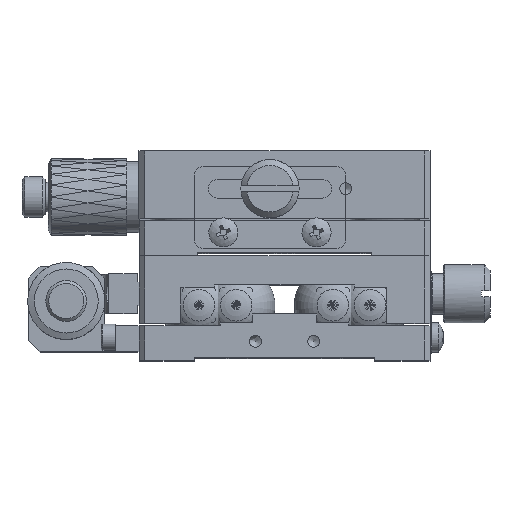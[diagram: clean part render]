
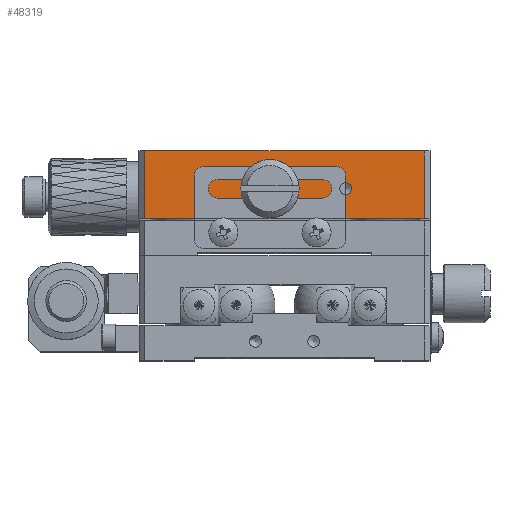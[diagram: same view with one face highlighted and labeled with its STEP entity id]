
A CAD part, top view. The second image highlights one B-rep face of the part: STEP entity #48319.
In plain terms, the highlighted planar face has unit normal (0, 0, 1).
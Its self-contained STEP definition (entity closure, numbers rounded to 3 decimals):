
#833 = CARTESIAN_POINT ( 'NONE',  ( 1., 36., 50. ) ) ;
#5715 = ORIENTED_EDGE ( 'NONE', *, *, #19283, .F. ) ;
#7819 = DIRECTION ( 'NONE',  ( 0., 1., 0. ) ) ;
#10402 = EDGE_LOOP ( 'NONE', ( #20439 ) ) ;
#11007 = EDGE_LOOP ( 'NONE', ( #99383 ) ) ;
#18582 = CARTESIAN_POINT ( 'NONE',  ( 1., 24.4, 50. ) ) ;
#18924 = CARTESIAN_POINT ( 'NONE',  ( 35.5, 29.5, 50. ) ) ;
#19283 = EDGE_CURVE ( 'NONE', #85455, #85455, #62222, .T. ) ;
#20439 = ORIENTED_EDGE ( 'NONE', *, *, #47753, .F. ) ;
#21928 = LINE ( 'NONE', #67551, #114265 ) ;
#22927 = DIRECTION ( 'NONE',  ( 1., 0., 0. ) ) ;
#27137 = AXIS2_PLACEMENT_3D ( 'NONE', #18924, #28400, #100694 ) ;
#28125 = CARTESIAN_POINT ( 'NONE',  ( 22.5, 29.5, 50. ) ) ;
#28400 = DIRECTION ( 'NONE',  ( 0., 0., 1. ) ) ;
#30667 = ORIENTED_EDGE ( 'NONE', *, *, #44702, .T. ) ;
#37400 = FACE_BOUND ( 'NONE', #11007, .T. ) ;
#38195 = FACE_BOUND ( 'NONE', #10402, .T. ) ;
#39351 = LINE ( 'NONE', #87279, #149620 ) ;
#39743 = CARTESIAN_POINT ( 'NONE',  ( 0., 36., 50. ) ) ;
#43439 = VERTEX_POINT ( 'NONE', #98614 ) ;
#44702 = EDGE_CURVE ( 'NONE', #67611, #43439, #21928, .T. ) ;
#45284 = EDGE_CURVE ( 'NONE', #134340, #134340, #124356, .T. ) ;
#46443 = EDGE_CURVE ( 'NONE', #102765, #49381, #146909, .T. ) ;
#47753 = EDGE_CURVE ( 'NONE', #103494, #103494, #152315, .T. ) ;
#47994 = EDGE_CURVE ( 'NONE', #102765, #43439, #145990, .T. ) ;
#48319 = ADVANCED_FACE ( 'NONE', ( #37400, #73553, #38195, #121434 ), #61735, .F. ) ;
#48449 = DIRECTION ( 'NONE',  ( -1., 0., 0. ) ) ;
#49381 = VERTEX_POINT ( 'NONE', #18582 ) ;
#49389 = CARTESIAN_POINT ( 'NONE',  ( 0., 36., 50. ) ) ;
#53237 = CARTESIAN_POINT ( 'NONE',  ( 23.7, 29.5, 50. ) ) ;
#54772 = CARTESIAN_POINT ( 'NONE',  ( 20.525, 29.5, 50. ) ) ;
#56643 = AXIS2_PLACEMENT_3D ( 'NONE', #130529, #81102, #22927 ) ;
#59187 = AXIS2_PLACEMENT_3D ( 'NONE', #39743, #147352, #48449 ) ;
#61735 = PLANE ( 'NONE',  #59187 ) ;
#62222 = CIRCLE ( 'NONE', #27137, 1.025 ) ;
#62894 = EDGE_LOOP ( 'NONE', ( #5715 ) ) ;
#64238 = DIRECTION ( 'NONE',  ( 0., 0., 1. ) ) ;
#67551 = CARTESIAN_POINT ( 'NONE',  ( 49., 36., 50. ) ) ;
#67611 = VERTEX_POINT ( 'NONE', #114691 ) ;
#73553 = FACE_BOUND ( 'NONE', #62894, .T. ) ;
#78964 = EDGE_LOOP ( 'NONE', ( #117437, #139660, #135595, #30667 ) ) ;
#79138 = DIRECTION ( 'NONE',  ( 1., 0., 0. ) ) ;
#81102 = DIRECTION ( 'NONE',  ( 0., 0., 1. ) ) ;
#85455 = VERTEX_POINT ( 'NONE', #121553 ) ;
#87279 = CARTESIAN_POINT ( 'NONE',  ( 0., 24.4, 50. ) ) ;
#98269 = DIRECTION ( 'NONE',  ( 0., -1., 0. ) ) ;
#98614 = CARTESIAN_POINT ( 'NONE',  ( 49., 36., 50. ) ) ;
#99257 = AXIS2_PLACEMENT_3D ( 'NONE', #28125, #64238, #134175 ) ;
#99383 = ORIENTED_EDGE ( 'NONE', *, *, #45284, .F. ) ;
#100304 = CARTESIAN_POINT ( 'NONE',  ( 1., 36., 50. ) ) ;
#100694 = DIRECTION ( 'NONE',  ( 1., 0., 0. ) ) ;
#102765 = VERTEX_POINT ( 'NONE', #100304 ) ;
#103494 = VERTEX_POINT ( 'NONE', #53237 ) ;
#104760 = EDGE_CURVE ( 'NONE', #49381, #67611, #39351, .T. ) ;
#114265 = VECTOR ( 'NONE', #7819, 1000. ) ;
#114691 = CARTESIAN_POINT ( 'NONE',  ( 49., 24.4, 50. ) ) ;
#117437 = ORIENTED_EDGE ( 'NONE', *, *, #47994, .F. ) ;
#121434 = FACE_OUTER_BOUND ( 'NONE', #78964, .T. ) ;
#121553 = CARTESIAN_POINT ( 'NONE',  ( 36.525, 29.5, 50. ) ) ;
#124356 = CIRCLE ( 'NONE', #56643, 1.025 ) ;
#130529 = CARTESIAN_POINT ( 'NONE',  ( 19.5, 29.5, 50. ) ) ;
#134175 = DIRECTION ( 'NONE',  ( 1., 0., 0. ) ) ;
#134340 = VERTEX_POINT ( 'NONE', #54772 ) ;
#135595 = ORIENTED_EDGE ( 'NONE', *, *, #104760, .T. ) ;
#139660 = ORIENTED_EDGE ( 'NONE', *, *, #46443, .T. ) ;
#142203 = VECTOR ( 'NONE', #79138, 1000. ) ;
#144667 = VECTOR ( 'NONE', #98269, 1000. ) ;
#145990 = LINE ( 'NONE', #49389, #142203 ) ;
#146909 = LINE ( 'NONE', #833, #144667 ) ;
#147352 = DIRECTION ( 'NONE',  ( 0., 0., -1. ) ) ;
#149620 = VECTOR ( 'NONE', #149858, 1000. ) ;
#149858 = DIRECTION ( 'NONE',  ( 1., 0., 0. ) ) ;
#152315 = CIRCLE ( 'NONE', #99257, 1.2 ) ;
